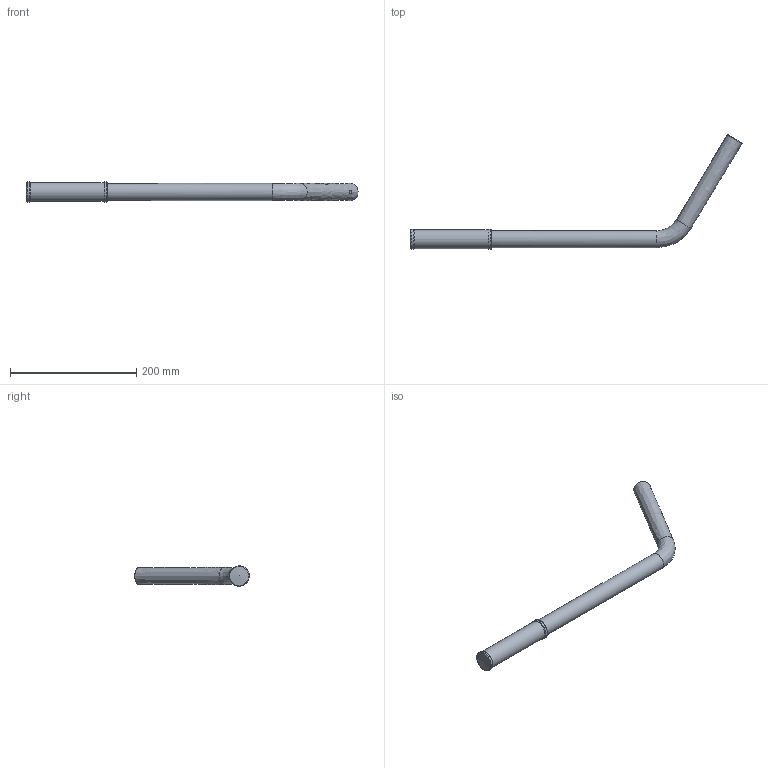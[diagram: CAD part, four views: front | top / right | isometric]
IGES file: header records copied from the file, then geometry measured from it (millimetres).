
Global section: file name: No Iges File Name specified; native system: Autodesk Inventor 2013; preprocessor: AutoDesk Inventor Iges Exporter R2013; author: christian.scardovi; date: 20240917.092622; units: millimetre
Bounding box: 524.97 x 181.27 x 31.98 mm (x, y, z)
Volume: 134360.2 mm3; surface area: 94924.7 mm2
Topology: 1 solids, 1 shells, 23 faces, 48 edges, 28 vertices
Faces by surface type: bspline 23
